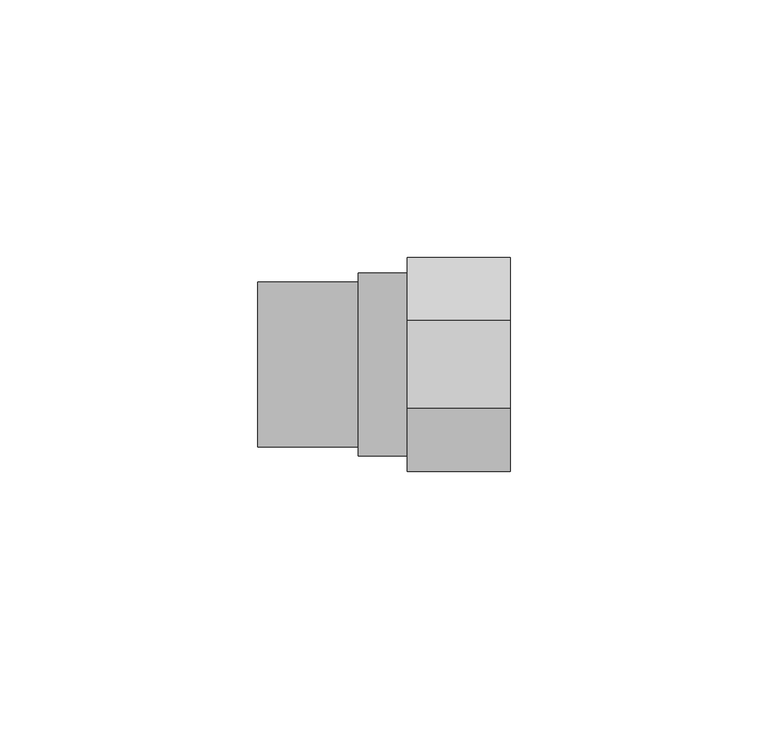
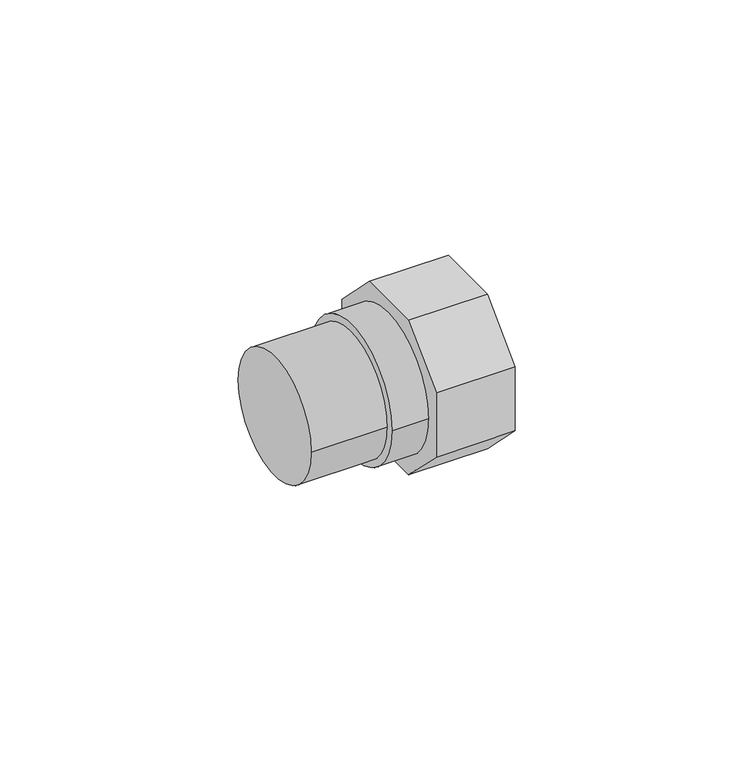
"""IFC4 building model written with IfcOpenShell, lengths in millimetres: pipe fitting geometry, PipeFitting_GirpiHTA_CPVC_ThreadedAdaptors_ForExpansionJoints : PipeFitting_GirpiHTA_CPVC_ThreadedAdaptors_ForExpansionJoints."""

from ifc_helpers import new_model, si_unit, point, frame, origin, origin_2d, place, context, project, spatial, polyline, circle_curve, trimmed, segment, composite_curve, outline, extrude, source, transform, mapped, element, save


def pipe_fitting_41a58208(model_context):
    return source(origin(), model_context, "Body", "SweptSolid", [
        extrude(outline(polyline([(-8.5949314, 20.75), (8.5949314, 20.75), (20.75, 8.5949314), (20.75, -8.5949314), (8.5949314, -20.75), (-8.5949314, -20.75), (-20.75, -8.5949314), (-20.75, 8.5949314), (-8.5949314, 20.75)])), frame((19.25, 0.0, 0.0), z_axis=(1.0, 0.0, 0.0), x_axis=(0.0, 1.0, 0.0)), (0.0, 0.0, 1.0), 20.0),
        extrude(outline(composite_curve([segment(trimmed(circle_curve(origin_2d(), 17.75), [point((17.75, 0.0))], [point((-17.75, 0.0))], False, "CARTESIAN"), True, "CONTINUOUS"), segment(trimmed(circle_curve(origin_2d(), 17.75), [point((-17.75, 0.0))], [point((17.75, 0.0))], False, "CARTESIAN"), True, "CONTINUOUS")], self_intersect=False)), frame((9.75, 0.0, 0.0), z_axis=(1.0, 0.0, 0.0), x_axis=(0.0, 1.0, 0.0)), (0.0, 0.0, 1.0), 9.5),
        extrude(outline(composite_curve([segment(trimmed(circle_curve(origin_2d(), 16.0), [point((16.0, 0.0))], [point((-16.0, 0.0))], False, "CARTESIAN"), True, "CONTINUOUS"), segment(trimmed(circle_curve(origin_2d(), 16.0), [point((-16.0, 0.0))], [point((16.0, 0.0))], False, "CARTESIAN"), True, "CONTINUOUS")], self_intersect=False)), frame((-9.75, 0.0, 0.0), z_axis=(1.0, 0.0, 0.0), x_axis=(0.0, 1.0, 0.0)), (0.0, 0.0, 1.0), 19.5),
    ])


if __name__ == "__main__":
    model = new_model("IFC4")
    model_context = context("Model", 3, world=origin())
    ifc_project = project(units=[si_unit("LENGTHUNIT", "METRE", prefix="MILLI")], contexts=[model_context])
    site = spatial("IfcSite", under=ifc_project)
    building = spatial("IfcBuilding", under=site)
    placement = place(None, origin())
    pipe_fitting_shape = pipe_fitting_41a58208(model_context)
    element("IfcPipeFitting", 1, ObjectType="PipeFitting_GirpiHTA_CPVC_ThreadedAdaptors_ForExpansionJoints : PipeFitting_GirpiHTA_CPVC_ThreadedAdaptors_ForExpansionJoints", at=placement, inside=building, context=model_context, shape_type="MappedRepresentation", body=[
        mapped(pipe_fitting_shape, transform((0.0, 0.0, 0.0), x_axis=(1.0, 0.0, 0.0), y_axis=(0.0, 1.0, 0.0), z_axis=(0.0, 0.0, 1.0))),
    ])
    save(model, "model.ifc")
